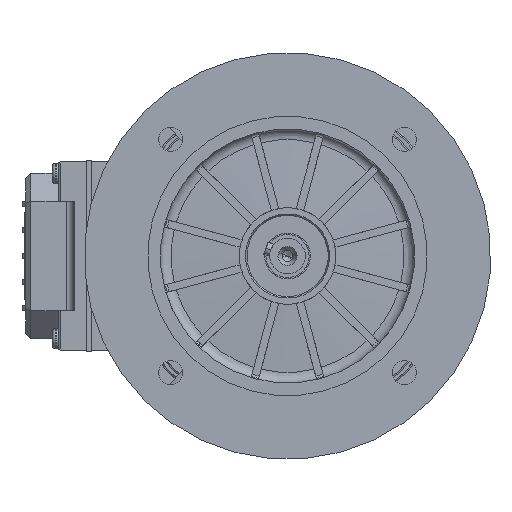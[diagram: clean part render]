
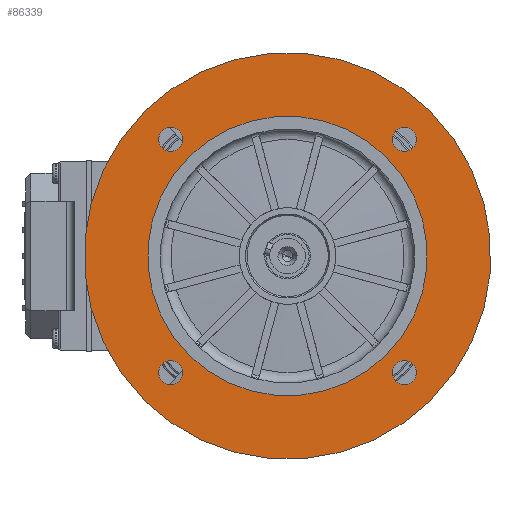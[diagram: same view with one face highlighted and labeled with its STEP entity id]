
A CAD part, left-side view. The second image highlights one B-rep face of the part: STEP entity #86339.
In plain terms, the highlighted planar face has unit normal (-1, 0, 0) as drawn and (0, -1, 0) by its records, which use the part's own axes.
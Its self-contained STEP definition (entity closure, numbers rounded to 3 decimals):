
#1772 = CARTESIAN_POINT ( 'NONE',  ( 0., 3.5, 0. ) ) ;
#3065 = CARTESIAN_POINT ( 'NONE',  ( 0., 3.5, 0. ) ) ;
#3876 = CIRCLE ( 'NONE', #52316, 4.75 ) ;
#4165 = DIRECTION ( 'NONE',  ( 0., 0., -1. ) ) ;
#4661 = FACE_OUTER_BOUND ( 'NONE', #22285, .T. ) ;
#6542 = ORIENTED_EDGE ( 'NONE', *, *, #77771, .F. ) ;
#6949 = FACE_BOUND ( 'NONE', #45121, .T. ) ;
#8291 = AXIS2_PLACEMENT_3D ( 'NONE', #73042, #30223, #80262 ) ;
#8610 = VERTEX_POINT ( 'NONE', #86914 ) ;
#8700 = VERTEX_POINT ( 'NONE', #38755 ) ;
#8997 = DIRECTION ( 'NONE',  ( 0., 0., -1. ) ) ;
#9035 = EDGE_CURVE ( 'NONE', #23360, #89307, #15000, .T. ) ;
#10316 = CIRCLE ( 'NONE', #85935, 55. ) ;
#10336 = DIRECTION ( 'NONE',  ( 0., 0., -1. ) ) ;
#11168 = CARTESIAN_POINT ( 'NONE',  ( 0., 3.5, 0. ) ) ;
#11281 = VERTEX_POINT ( 'NONE', #16726 ) ;
#11679 = CIRCLE ( 'NONE', #87113, 4.75 ) ;
#11856 = ORIENTED_EDGE ( 'NONE', *, *, #20052, .T. ) ;
#12377 = CIRCLE ( 'NONE', #90375, 80. ) ;
#14770 = DIRECTION ( 'NONE',  ( 0., 1., 0. ) ) ;
#15000 = CIRCLE ( 'NONE', #60736, 4.75 ) ;
#15591 = CARTESIAN_POINT ( 'NONE',  ( 0., 3.5, 65. ) ) ;
#16726 = CARTESIAN_POINT ( 'NONE',  ( 0., 3.5, -80. ) ) ;
#18396 = DIRECTION ( 'NONE',  ( 0., 0., -1. ) ) ;
#18699 = EDGE_CURVE ( 'NONE', #36372, #83286, #72201, .T. ) ;
#20052 = EDGE_CURVE ( 'NONE', #66609, #21122, #56505, .T. ) ;
#21122 = VERTEX_POINT ( 'NONE', #54734 ) ;
#22285 = EDGE_LOOP ( 'NONE', ( #58960, #73576 ) ) ;
#22715 = CARTESIAN_POINT ( 'NONE',  ( 0., 3.5, -65. ) ) ;
#22838 = DIRECTION ( 'NONE',  ( 0., 0., -1. ) ) ;
#23144 = CIRCLE ( 'NONE', #48368, 4.75 ) ;
#23360 = VERTEX_POINT ( 'NONE', #25394 ) ;
#23798 = FACE_BOUND ( 'NONE', #58523, .T. ) ;
#24062 = EDGE_CURVE ( 'NONE', #11281, #8700, #55791, .T. ) ;
#24348 = CARTESIAN_POINT ( 'NONE',  ( -65., 3.5, -4.75 ) ) ;
#25394 = CARTESIAN_POINT ( 'NONE',  ( 0., 3.5, -60.25 ) ) ;
#25850 = DIRECTION ( 'NONE',  ( 0., 1., 0. ) ) ;
#26072 = FACE_BOUND ( 'NONE', #89273, .T. ) ;
#26429 = DIRECTION ( 'NONE',  ( 0., -1., 0. ) ) ;
#26520 = EDGE_CURVE ( 'NONE', #83286, #36372, #11679, .T. ) ;
#26811 = CARTESIAN_POINT ( 'NONE',  ( 0., 3.5, -69.75 ) ) ;
#29942 = DIRECTION ( 'NONE',  ( 0., 0., -1. ) ) ;
#30123 = DIRECTION ( 'NONE',  ( 0., 1., 0. ) ) ;
#30223 = DIRECTION ( 'NONE',  ( 0., -1., 0. ) ) ;
#33390 = DIRECTION ( 'NONE',  ( 0., 1., 0. ) ) ;
#34401 = EDGE_CURVE ( 'NONE', #21122, #66609, #3876, .T. ) ;
#36372 = VERTEX_POINT ( 'NONE', #72702 ) ;
#37834 = CARTESIAN_POINT ( 'NONE',  ( 0., 3.5, 69.75 ) ) ;
#38755 = CARTESIAN_POINT ( 'NONE',  ( 0., 3.5, 80. ) ) ;
#38827 = CARTESIAN_POINT ( 'NONE',  ( 0., 3.5, 55. ) ) ;
#39155 = ORIENTED_EDGE ( 'NONE', *, *, #18699, .T. ) ;
#39342 = CIRCLE ( 'NONE', #45222, 4.75 ) ;
#40047 = CARTESIAN_POINT ( 'NONE',  ( 65., 3.5, 0. ) ) ;
#42335 = AXIS2_PLACEMENT_3D ( 'NONE', #69243, #26429, #76454 ) ;
#42875 = FACE_BOUND ( 'NONE', #89166, .T. ) ;
#43243 = EDGE_CURVE ( 'NONE', #8610, #88708, #10316, .T. ) ;
#43275 = ORIENTED_EDGE ( 'NONE', *, *, #26520, .T. ) ;
#44690 = AXIS2_PLACEMENT_3D ( 'NONE', #76196, #33390, #83390 ) ;
#45121 = EDGE_LOOP ( 'NONE', ( #56624, #6542 ) ) ;
#45222 = AXIS2_PLACEMENT_3D ( 'NONE', #40047, #90084, #47201 ) ;
#47101 = VERTEX_POINT ( 'NONE', #80537 ) ;
#47120 = DIRECTION ( 'NONE',  ( 0., 1., 0. ) ) ;
#47201 = DIRECTION ( 'NONE',  ( 0., 0., -1. ) ) ;
#48368 = AXIS2_PLACEMENT_3D ( 'NONE', #72944, #30123, #80161 ) ;
#51915 = DIRECTION ( 'NONE',  ( 0., -1., 0. ) ) ;
#52316 = AXIS2_PLACEMENT_3D ( 'NONE', #57645, #14770, #64832 ) ;
#53239 = DIRECTION ( 'NONE',  ( 0., -1., 0. ) ) ;
#54734 = CARTESIAN_POINT ( 'NONE',  ( -65., 3.5, 4.75 ) ) ;
#55791 = CIRCLE ( 'NONE', #8291, 80. ) ;
#56505 = CIRCLE ( 'NONE', #44690, 4.75 ) ;
#56624 = ORIENTED_EDGE ( 'NONE', *, *, #43243, .F. ) ;
#57645 = CARTESIAN_POINT ( 'NONE',  ( -65., 3.5, 0. ) ) ;
#58390 = AXIS2_PLACEMENT_3D ( 'NONE', #89994, #47120, #4165 ) ;
#58523 = EDGE_LOOP ( 'NONE', ( #78241, #72719 ) ) ;
#58799 = VERTEX_POINT ( 'NONE', #70965 ) ;
#58960 = ORIENTED_EDGE ( 'NONE', *, *, #24062, .T. ) ;
#60341 = EDGE_CURVE ( 'NONE', #47101, #58799, #71020, .T. ) ;
#60736 = AXIS2_PLACEMENT_3D ( 'NONE', #22715, #72773, #29942 ) ;
#61255 = DIRECTION ( 'NONE',  ( 0., -1., 0. ) ) ;
#61847 = FACE_BOUND ( 'NONE', #76499, .T. ) ;
#63575 = EDGE_CURVE ( 'NONE', #58799, #47101, #39342, .T. ) ;
#64832 = DIRECTION ( 'NONE',  ( 0., 0., -1. ) ) ;
#65353 = AXIS2_PLACEMENT_3D ( 'NONE', #3065, #53239, #10336 ) ;
#65666 = DIRECTION ( 'NONE',  ( 0., 1., 0. ) ) ;
#66118 = EDGE_CURVE ( 'NONE', #89307, #23360, #23144, .T. ) ;
#66597 = AXIS2_PLACEMENT_3D ( 'NONE', #68681, #25850, #75883 ) ;
#66609 = VERTEX_POINT ( 'NONE', #24348 ) ;
#68681 = CARTESIAN_POINT ( 'NONE',  ( 65., 3.5, 0. ) ) ;
#69243 = CARTESIAN_POINT ( 'NONE',  ( 55., 3.5, 0. ) ) ;
#70965 = CARTESIAN_POINT ( 'NONE',  ( 65., 3.5, -4.75 ) ) ;
#71020 = CIRCLE ( 'NONE', #66597, 4.75 ) ;
#72201 = CIRCLE ( 'NONE', #58390, 4.75 ) ;
#72702 = CARTESIAN_POINT ( 'NONE',  ( 0., 3.5, 60.25 ) ) ;
#72719 = ORIENTED_EDGE ( 'NONE', *, *, #66118, .T. ) ;
#72773 = DIRECTION ( 'NONE',  ( 0., 1., 0. ) ) ;
#72944 = CARTESIAN_POINT ( 'NONE',  ( 0., 3.5, -65. ) ) ;
#73042 = CARTESIAN_POINT ( 'NONE',  ( 0., 3.5, 0. ) ) ;
#73576 = ORIENTED_EDGE ( 'NONE', *, *, #88600, .T. ) ;
#75883 = DIRECTION ( 'NONE',  ( 0., 0., -1. ) ) ;
#76196 = CARTESIAN_POINT ( 'NONE',  ( -65., 3.5, 0. ) ) ;
#76454 = DIRECTION ( 'NONE',  ( 0., 0., -1. ) ) ;
#76499 = EDGE_LOOP ( 'NONE', ( #90436, #11856 ) ) ;
#77771 = EDGE_CURVE ( 'NONE', #88708, #8610, #80106, .T. ) ;
#78241 = ORIENTED_EDGE ( 'NONE', *, *, #9035, .T. ) ;
#78950 = ORIENTED_EDGE ( 'NONE', *, *, #60341, .T. ) ;
#80106 = CIRCLE ( 'NONE', #65353, 55. ) ;
#80161 = DIRECTION ( 'NONE',  ( 0., 0., -1. ) ) ;
#80262 = DIRECTION ( 'NONE',  ( 0., 0., -1. ) ) ;
#80537 = CARTESIAN_POINT ( 'NONE',  ( 65., 3.5, 4.75 ) ) ;
#83130 = ORIENTED_EDGE ( 'NONE', *, *, #63575, .T. ) ;
#83286 = VERTEX_POINT ( 'NONE', #37834 ) ;
#83333 = PLANE ( 'NONE',  #42335 ) ;
#83390 = DIRECTION ( 'NONE',  ( 0., 0., -1. ) ) ;
#85935 = AXIS2_PLACEMENT_3D ( 'NONE', #11168, #61255, #18396 ) ;
#86339 = ADVANCED_FACE ( 'NONE', ( #42875, #23798, #26072, #61847, #4661, #6949 ), #83333, .T. ) ;
#86914 = CARTESIAN_POINT ( 'NONE',  ( 0., 3.5, -55. ) ) ;
#87113 = AXIS2_PLACEMENT_3D ( 'NONE', #15591, #65666, #22838 ) ;
#88600 = EDGE_CURVE ( 'NONE', #8700, #11281, #12377, .T. ) ;
#88708 = VERTEX_POINT ( 'NONE', #38827 ) ;
#89166 = EDGE_LOOP ( 'NONE', ( #43275, #39155 ) ) ;
#89273 = EDGE_LOOP ( 'NONE', ( #78950, #83130 ) ) ;
#89307 = VERTEX_POINT ( 'NONE', #26811 ) ;
#89994 = CARTESIAN_POINT ( 'NONE',  ( 0., 3.5, 65. ) ) ;
#90084 = DIRECTION ( 'NONE',  ( 0., 1., 0. ) ) ;
#90375 = AXIS2_PLACEMENT_3D ( 'NONE', #1772, #51915, #8997 ) ;
#90436 = ORIENTED_EDGE ( 'NONE', *, *, #34401, .T. ) ;
